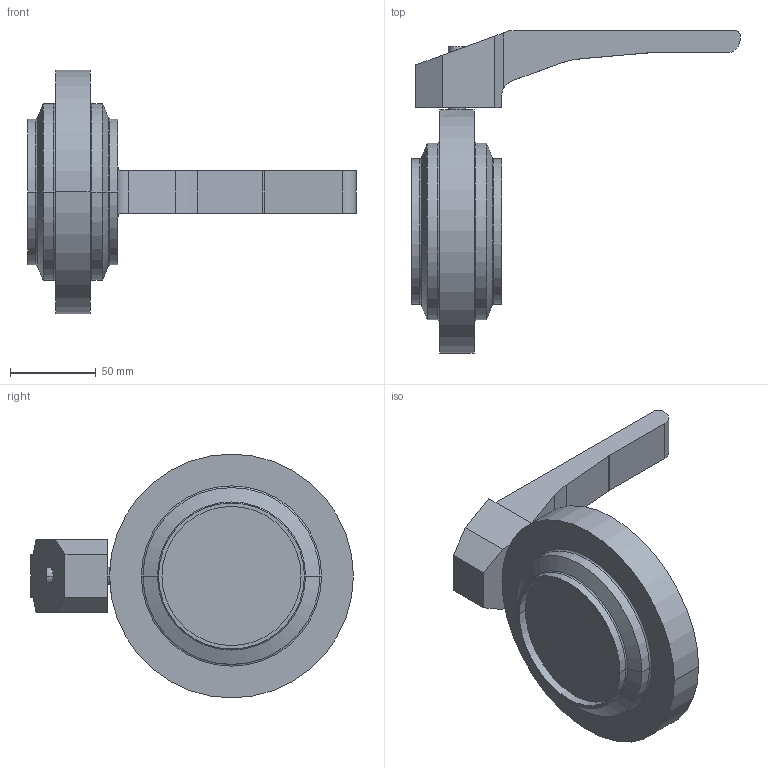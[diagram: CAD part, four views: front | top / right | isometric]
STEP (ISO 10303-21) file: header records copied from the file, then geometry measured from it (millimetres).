
FILE_DESCRIPTION(('OneSpaceDesigner STEP Export'),'2;1');
FILE_NAME('SV1-80-H-12S.stp','2007-04-19T14:56:09',(''),(''),'OneSpace Designer STEP processor for AP214 (Solid Model)','OneSpace Modeling 15.00 06-Feb-2007 (C) CoCreate Software GmbH','');
FILE_SCHEMA(('AUTOMOTIVE_DESIGN { 1 0 10303 214 1 1 1 1 }'));
Length unit declared in the file: millimetre
Products named in the file (3): SV1-80-H-12S; Handhebel-SV-40-100; SV1-80-H-12S-vereint
Assembly tree (2 placements, depth 2):
  SV1-80-H-12S-vereint
    Handhebel-SV-40-100
    SV1-80-H-12S
Bounding box: 191.2 x 188 x 142 mm (x, y, z)
Volume: 624069.2 mm3; surface area: 71786.6 mm2
Topology: 2 solids, 2 shells, 60 faces, 135 edges, 84 vertices
Faces by surface type: plane 25, cylinder 23, torus 8, cone 4
Entity records: 1961 total; most frequent: CARTESIAN_POINT 641, ORIENTED_EDGE 270, DIRECTION 247, EDGE_CURVE 135, AXIS2_PLACEMENT_3D 89, VERTEX_POINT 84, VECTOR 69, LINE 69
